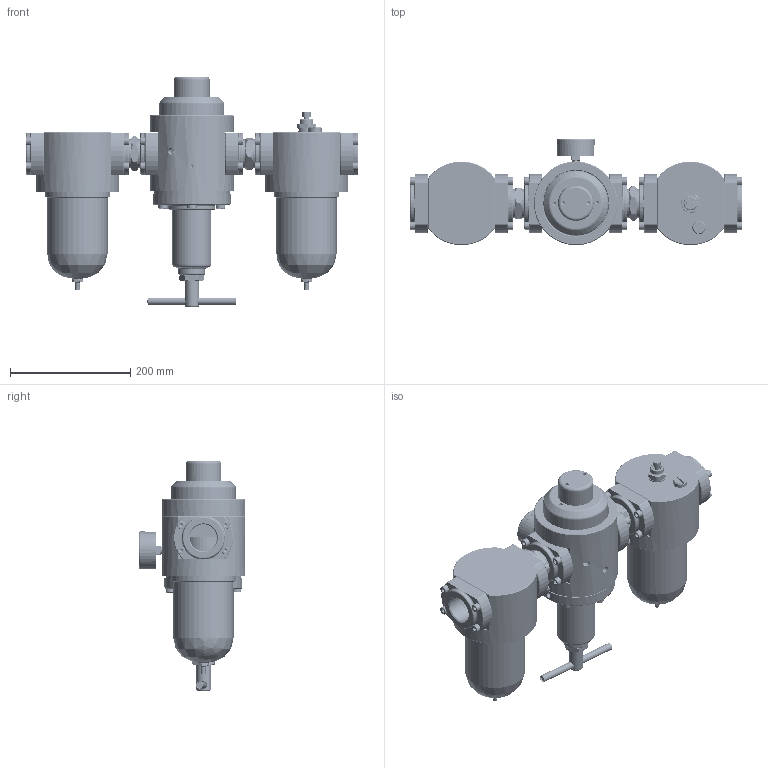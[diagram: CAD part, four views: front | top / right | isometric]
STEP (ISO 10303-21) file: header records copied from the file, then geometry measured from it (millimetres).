
FILE_DESCRIPTION((''),'2;1');
FILE_NAME('U:\AirCom-Produktdokumentation\Wartungseinheiten\C3003\Zeichnungen\CAD-Aircom\3D\B-C3000-12.stp','2011-05-23T10:08:37',('Frank Schroers'),(''),'Autodesk Inventor 2008','Autodesk Inventor 2008','');
FILE_SCHEMA(('AUTOMOTIVE_DESIGN { 1 0 10303 214 1 1 1 1 }'));
Length unit declared in the file: millimetre
Products named in the file (73): B-C3000-12; B-F3000-12; P20419; C25019; Welds_1; Solido1A; Solido1B; P35028; P50041; P38050; C55002; P55012; P42023; P41074; P20186; P27069; P20187; C01271-0GAAB08011; C01271-0GAAB08005; C01271-0GAAB07027; P26037; P48016; ISO 4032 M6; P37062; 0DC10515; C06044-OR189; C06044-OR3243; C06044-OR3243_MIR; B-R3000-12; P20367; P31004; P33027; P41040; C22061; P22033; P42022; P35019; P37058; P34140; P34141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
Assembly tree (97 placements, depth 5):
  B-C3000-12
    B-F3000-12  x2
      P20419
      C25019
        Welds_1
          Solido1A
          Solido1B
        P35028
        P50041
        P38050
      C55002
        P55012
        P42023
        P41074
        P20186
        P27069
        P20187
        C01271-0GAAB08011
        C01271-0GAAB08005
        C01271-0GAAB07027
      P26037
      P48016
      ISO 4032 M6
      P37062
      0DC10515
      C06044-OR189
      C06044-OR3243
      C06044-OR3243_MIR
    B-R3000-12
      P20367
      P31004
      P33027
      P41040
      C22061
        P22033
        P42022
        P35019
      P37058
      P34140
      P34141
      P55006
      P32023
      P43064
      P30012
      0ED07B
      UNI 5589 M24 x 2
      P32012
      P24023
        P24023
      Flansch40  x2
      C01250 - O Ring 3187
      C01250 - O Ring R25
      C01250 - O Ring 189
      C01250 - O Ring 3243  x2
      C01250 - O Ring 8 bis
      C01250 - O Ring 1 bis
      0ABNCC07
      P25015
      P27042
      P24025
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Bounding box: 551.73 x 177.05 x 383.15 mm (x, y, z)
Volume: 5118686.8 mm3; surface area: 1261748.3 mm2
Topology: 118 solids, 118 shells, 1973 faces, 4287 edges, 2680 vertices
Faces by surface type: plane 818, cylinder 558, cone 338, bspline 130, torus 126, sphere 3
Full cylindrical faces by diameter (mm): 0.3 x2, 0.4 x2, 1.5 x5, 1.7 x2, 1.8 x2, 2 x11, 2.013 x2, 2.5 x2, 2.6 x1, 3 x4, 3.4 x2, 3.5 x1, 3.9 x1, 4 x6, 4.3 x2, 4.917 x4, 5 x12, 5.1 x1, 5.5 x4, 6 x6, 6.2 x2, 6.459 x2, 6.647 x24, 7 x4, 7.2 x4, 7.5 x6, 7.7 x6, 7.917 x2, 8 x28, 8.376 x6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
Entity records: 38445 total; most frequent: CARTESIAN_POINT 15410, DIRECTION 4782, ORIENTED_EDGE 3358, AXIS2_PLACEMENT_3D 2208, EDGE_LOOP 1792, EDGE_CURVE 1679, VERTEX_POINT 1299, FACE_OUTER_BOUND 1070
